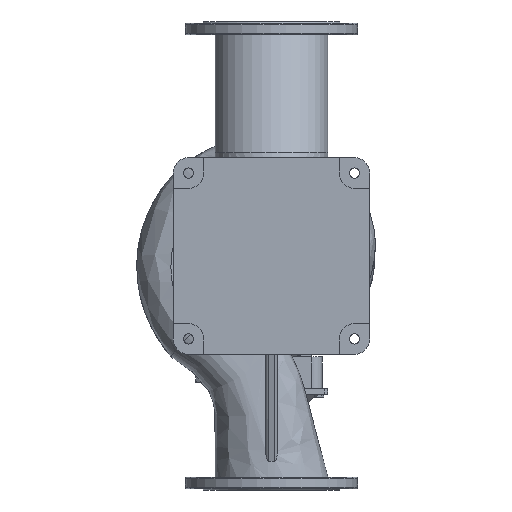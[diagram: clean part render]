
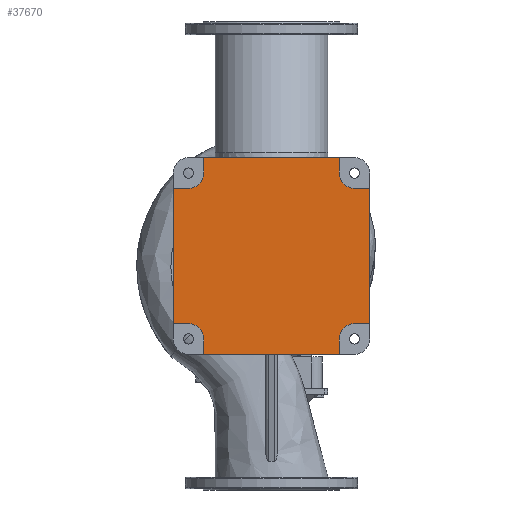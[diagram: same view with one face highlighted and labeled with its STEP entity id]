
A CAD part, front view. The second image highlights one B-rep face of the part: STEP entity #37670.
In plain terms, the highlighted planar face has unit normal (0, -1, 0).
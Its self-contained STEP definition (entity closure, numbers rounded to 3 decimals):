
#88 = VERTEX_POINT ( 'NONE', #67820 ) ;
#208 = AXIS2_PLACEMENT_3D ( 'NONE', #38536, #69692, #3484 ) ;
#631 = DIRECTION ( 'NONE',  ( 0., 0., -1. ) ) ;
#676 = LINE ( 'NONE', #47411, #34088 ) ;
#752 = ORIENTED_EDGE ( 'NONE', *, *, #54959, .T. ) ;
#851 = LINE ( 'NONE', #13706, #43172 ) ;
#1535 = CARTESIAN_POINT ( 'NONE',  ( -159., -295., 195. ) ) ;
#2645 = ORIENTED_EDGE ( 'NONE', *, *, #11041, .T. ) ;
#3484 = DIRECTION ( 'NONE',  ( 0., 0., 1. ) ) ;
#3632 = VERTEX_POINT ( 'NONE', #1535 ) ;
#3697 = DIRECTION ( 'NONE',  ( -1., 0., 0. ) ) ;
#3779 = VECTOR ( 'NONE', #36431, 1000. ) ;
#3892 = CARTESIAN_POINT ( 'NONE',  ( 195., -295., -159. ) ) ;
#5261 = VECTOR ( 'NONE', #35712, 1000. ) ;
#5723 = CARTESIAN_POINT ( 'NONE',  ( 159., -295., 195. ) ) ;
#6633 = CARTESIAN_POINT ( 'NONE',  ( 159., -295., -231. ) ) ;
#7029 = DIRECTION ( 'NONE',  ( 1., 0., 0. ) ) ;
#7630 = LINE ( 'NONE', #49309, #3779 ) ;
#7779 = CARTESIAN_POINT ( 'NONE',  ( 195., -295., 159. ) ) ;
#8240 = CARTESIAN_POINT ( 'NONE',  ( -195., -295., -195. ) ) ;
#8281 = LINE ( 'NONE', #67152, #51000 ) ;
#8502 = ORIENTED_EDGE ( 'NONE', *, *, #17783, .T. ) ;
#9060 = CARTESIAN_POINT ( 'NONE',  ( -159., -295., 231. ) ) ;
#9129 = EDGE_CURVE ( 'NONE', #15463, #11238, #37351, .T. ) ;
#10668 = VERTEX_POINT ( 'NONE', #48632 ) ;
#10873 = DIRECTION ( 'NONE',  ( 0., 0., 1. ) ) ;
#11041 = EDGE_CURVE ( 'NONE', #70695, #54952, #30951, .T. ) ;
#11238 = VERTEX_POINT ( 'NONE', #45217 ) ;
#11907 = AXIS2_PLACEMENT_3D ( 'NONE', #45560, #52549, #10873 ) ;
#12099 = EDGE_CURVE ( 'NONE', #62741, #88, #71199, .T. ) ;
#13706 = CARTESIAN_POINT ( 'NONE',  ( -231., -295., -159. ) ) ;
#13717 = PLANE ( 'NONE',  #59474 ) ;
#14954 = VECTOR ( 'NONE', #631, 1000. ) ;
#15453 = EDGE_CURVE ( 'NONE', #46705, #3632, #67964, .T. ) ;
#15463 = VERTEX_POINT ( 'NONE', #74188 ) ;
#15469 = ORIENTED_EDGE ( 'NONE', *, *, #34576, .T. ) ;
#15746 = CARTESIAN_POINT ( 'NONE',  ( -159., -295., 231. ) ) ;
#16720 = LINE ( 'NONE', #3892, #41758 ) ;
#17275 = VECTOR ( 'NONE', #7029, 1000. ) ;
#17434 = DIRECTION ( 'NONE',  ( 0., 1., 0. ) ) ;
#17783 = EDGE_CURVE ( 'NONE', #10668, #21767, #63067, .T. ) ;
#18040 = ORIENTED_EDGE ( 'NONE', *, *, #36591, .T. ) ;
#18270 = ORIENTED_EDGE ( 'NONE', *, *, #18610, .T. ) ;
#18610 = EDGE_CURVE ( 'NONE', #42305, #70695, #70824, .T. ) ;
#19165 = DIRECTION ( 'NONE',  ( 1., 0., 0. ) ) ;
#19273 = DIRECTION ( 'NONE',  ( 0., 0., 1. ) ) ;
#19742 = ORIENTED_EDGE ( 'NONE', *, *, #12099, .T. ) ;
#21587 = DIRECTION ( 'NONE',  ( 0., 0., 1. ) ) ;
#21767 = VERTEX_POINT ( 'NONE', #55384 ) ;
#22172 = VECTOR ( 'NONE', #19273, 1000. ) ;
#22968 = VECTOR ( 'NONE', #62122, 1000. ) ;
#24109 = VERTEX_POINT ( 'NONE', #30817 ) ;
#24334 = CARTESIAN_POINT ( 'NONE',  ( 159., -295., 195. ) ) ;
#24905 = VERTEX_POINT ( 'NONE', #73119 ) ;
#24995 = FACE_OUTER_BOUND ( 'NONE', #71247, .T. ) ;
#25006 = VERTEX_POINT ( 'NONE', #67668 ) ;
#25053 = VERTEX_POINT ( 'NONE', #58259 ) ;
#25730 = EDGE_CURVE ( 'NONE', #21767, #42305, #676, .T. ) ;
#26916 = ORIENTED_EDGE ( 'NONE', *, *, #25730, .T. ) ;
#27230 = VECTOR ( 'NONE', #32297, 1000. ) ;
#27812 = CARTESIAN_POINT ( 'NONE',  ( -195., -295., -195. ) ) ;
#28784 = DIRECTION ( 'NONE',  ( 1., 0., 0. ) ) ;
#30817 = CARTESIAN_POINT ( 'NONE',  ( -159., -295., -231. ) ) ;
#30951 = LINE ( 'NONE', #24334, #22172 ) ;
#31998 = DIRECTION ( 'NONE',  ( 0., 1., 0. ) ) ;
#32297 = DIRECTION ( 'NONE',  ( 0., 0., 1. ) ) ;
#34088 = VECTOR ( 'NONE', #60291, 1000. ) ;
#34464 = ORIENTED_EDGE ( 'NONE', *, *, #34575, .T. ) ;
#34575 = EDGE_CURVE ( 'NONE', #25053, #10668, #16720, .T. ) ;
#34576 = EDGE_CURVE ( 'NONE', #88, #25053, #67896, .T. ) ;
#35712 = DIRECTION ( 'NONE',  ( 0., 0., 1. ) ) ;
#36046 = ORIENTED_EDGE ( 'NONE', *, *, #9129, .T. ) ;
#36431 = DIRECTION ( 'NONE',  ( -1., 0., 0. ) ) ;
#36591 = EDGE_CURVE ( 'NONE', #24905, #25006, #851, .T. ) ;
#36612 = LINE ( 'NONE', #6633, #17275 ) ;
#37212 = AXIS2_PLACEMENT_3D ( 'NONE', #40805, #17434, #64614 ) ;
#37351 = CIRCLE ( 'NONE', #74692, 36. ) ;
#37481 = CARTESIAN_POINT ( 'NONE',  ( 159., -295., 231. ) ) ;
#37670 = ADVANCED_FACE ( 'NONE', ( #24995 ), #13717, .F. ) ;
#38536 = CARTESIAN_POINT ( 'NONE',  ( -195., -295., 195. ) ) ;
#39420 = ORIENTED_EDGE ( 'NONE', *, *, #49683, .T. ) ;
#40331 = EDGE_CURVE ( 'NONE', #24109, #62741, #36612, .T. ) ;
#40805 = CARTESIAN_POINT ( 'NONE',  ( 195., -295., 195. ) ) ;
#41758 = VECTOR ( 'NONE', #28784, 1000. ) ;
#42305 = VERTEX_POINT ( 'NONE', #7779 ) ;
#43080 = LINE ( 'NONE', #66486, #14954 ) ;
#43172 = VECTOR ( 'NONE', #66709, 1000. ) ;
#45217 = CARTESIAN_POINT ( 'NONE',  ( -159., -295., -195. ) ) ;
#45560 = CARTESIAN_POINT ( 'NONE',  ( 195., -295., -195. ) ) ;
#45852 = CARTESIAN_POINT ( 'NONE',  ( 159., -295., -231. ) ) ;
#46278 = CARTESIAN_POINT ( 'NONE',  ( 159., -295., -195. ) ) ;
#46705 = VERTEX_POINT ( 'NONE', #9060 ) ;
#47411 = CARTESIAN_POINT ( 'NONE',  ( 195., -295., 159. ) ) ;
#48632 = CARTESIAN_POINT ( 'NONE',  ( 231., -295., -159. ) ) ;
#49309 = CARTESIAN_POINT ( 'NONE',  ( -195., -295., 159. ) ) ;
#49683 = EDGE_CURVE ( 'NONE', #3632, #64528, #68634, .T. ) ;
#51000 = VECTOR ( 'NONE', #55029, 1000. ) ;
#51956 = DIRECTION ( 'NONE',  ( 0., 1., 0. ) ) ;
#52549 = DIRECTION ( 'NONE',  ( 0., 1., 0. ) ) ;
#54952 = VERTEX_POINT ( 'NONE', #37481 ) ;
#54959 = EDGE_CURVE ( 'NONE', #25006, #15463, #8281, .T. ) ;
#55029 = DIRECTION ( 'NONE',  ( 1., 0., 0. ) ) ;
#55384 = CARTESIAN_POINT ( 'NONE',  ( 231., -295., 159. ) ) ;
#55653 = EDGE_CURVE ( 'NONE', #64528, #24905, #7630, .T. ) ;
#55717 = EDGE_CURVE ( 'NONE', #11238, #24109, #43080, .T. ) ;
#56073 = CARTESIAN_POINT ( 'NONE',  ( 231., -295., 159. ) ) ;
#57349 = ORIENTED_EDGE ( 'NONE', *, *, #61401, .T. ) ;
#58259 = CARTESIAN_POINT ( 'NONE',  ( 195., -295., -159. ) ) ;
#59105 = ORIENTED_EDGE ( 'NONE', *, *, #55717, .T. ) ;
#59474 = AXIS2_PLACEMENT_3D ( 'NONE', #8240, #31998, #19165 ) ;
#60291 = DIRECTION ( 'NONE',  ( -1., 0., 0. ) ) ;
#60766 = VECTOR ( 'NONE', #3697, 1000. ) ;
#61341 = CARTESIAN_POINT ( 'NONE',  ( -159., -295., 195. ) ) ;
#61401 = EDGE_CURVE ( 'NONE', #54952, #46705, #63672, .T. ) ;
#62122 = DIRECTION ( 'NONE',  ( 0., 0., -1. ) ) ;
#62680 = ORIENTED_EDGE ( 'NONE', *, *, #40331, .T. ) ;
#62741 = VERTEX_POINT ( 'NONE', #45852 ) ;
#63067 = LINE ( 'NONE', #56073, #27230 ) ;
#63672 = LINE ( 'NONE', #15746, #60766 ) ;
#64528 = VERTEX_POINT ( 'NONE', #65369 ) ;
#64614 = DIRECTION ( 'NONE',  ( 0., 0., 1. ) ) ;
#65369 = CARTESIAN_POINT ( 'NONE',  ( -195., -295., 159. ) ) ;
#65390 = ORIENTED_EDGE ( 'NONE', *, *, #15453, .T. ) ;
#66486 = CARTESIAN_POINT ( 'NONE',  ( -159., -295., -195. ) ) ;
#66709 = DIRECTION ( 'NONE',  ( 0., 0., -1. ) ) ;
#67152 = CARTESIAN_POINT ( 'NONE',  ( -195., -295., -159. ) ) ;
#67668 = CARTESIAN_POINT ( 'NONE',  ( -231., -295., -159. ) ) ;
#67820 = CARTESIAN_POINT ( 'NONE',  ( 159., -295., -195. ) ) ;
#67896 = CIRCLE ( 'NONE', #11907, 36. ) ;
#67964 = LINE ( 'NONE', #61341, #22968 ) ;
#68634 = CIRCLE ( 'NONE', #208, 36. ) ;
#69692 = DIRECTION ( 'NONE',  ( 0., 1., 0. ) ) ;
#70695 = VERTEX_POINT ( 'NONE', #5723 ) ;
#70824 = CIRCLE ( 'NONE', #37212, 36. ) ;
#71156 = ORIENTED_EDGE ( 'NONE', *, *, #55653, .T. ) ;
#71199 = LINE ( 'NONE', #46278, #5261 ) ;
#71247 = EDGE_LOOP ( 'NONE', ( #36046, #59105, #62680, #19742, #15469, #34464, #8502, #26916, #18270, #2645, #57349, #65390, #39420, #71156, #18040, #752 ) ) ;
#73119 = CARTESIAN_POINT ( 'NONE',  ( -231., -295., 159. ) ) ;
#74188 = CARTESIAN_POINT ( 'NONE',  ( -195., -295., -159. ) ) ;
#74692 = AXIS2_PLACEMENT_3D ( 'NONE', #27812, #51956, #21587 ) ;
